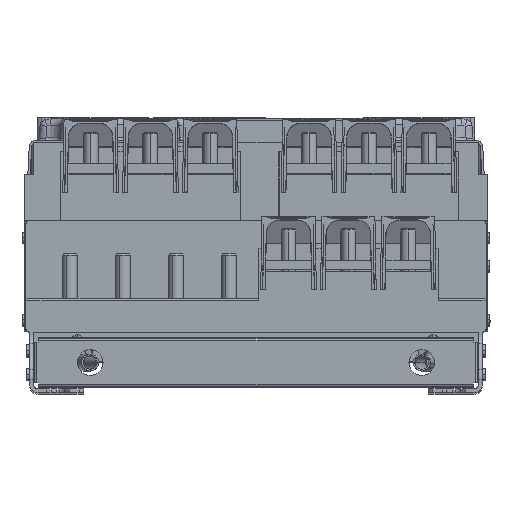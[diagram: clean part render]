
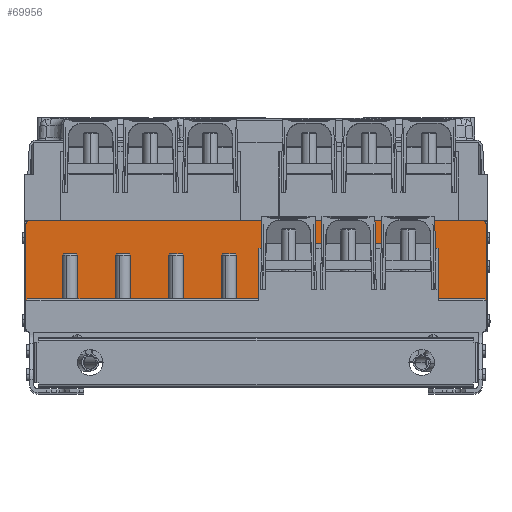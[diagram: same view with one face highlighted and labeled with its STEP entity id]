
A CAD part, top view. The second image highlights one B-rep face of the part: STEP entity #69956.
In plain terms, the highlighted planar face has unit normal (0, 0, 1).
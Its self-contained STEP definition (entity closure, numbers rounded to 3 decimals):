
#733 = CARTESIAN_POINT ( 'NONE',  ( 2.806, 89., 179. ) ) ;
#1127 = ORIENTED_EDGE ( 'NONE', *, *, #54781, .F. ) ;
#1866 = ORIENTED_EDGE ( 'NONE', *, *, #36319, .F. ) ;
#2496 = VERTEX_POINT ( 'NONE', #35633 ) ;
#2855 = EDGE_CURVE ( 'NONE', #39981, #76472, #95355, .T. ) ;
#3177 = DIRECTION ( 'NONE',  ( 1., 0., 0. ) ) ;
#4326 = DIRECTION ( 'NONE',  ( 1., 0., 0. ) ) ;
#4914 = CARTESIAN_POINT ( 'NONE',  ( -247., 35., 179. ) ) ;
#4958 = ORIENTED_EDGE ( 'NONE', *, *, #52672, .T. ) ;
#5672 = EDGE_CURVE ( 'NONE', #55098, #31838, #70380, .T. ) ;
#6348 = ORIENTED_EDGE ( 'NONE', *, *, #75277, .T. ) ;
#9524 = DIRECTION ( 'NONE',  ( 1., 0., 0. ) ) ;
#9564 = VERTEX_POINT ( 'NONE', #49361 ) ;
#9766 = ORIENTED_EDGE ( 'NONE', *, *, #37284, .T. ) ;
#10060 = EDGE_CURVE ( 'NONE', #20686, #72873, #22641, .T. ) ;
#10874 = DIRECTION ( 'NONE',  ( 1., 0., 0. ) ) ;
#12317 = PLANE ( 'NONE',  #27825 ) ;
#12982 = LINE ( 'NONE', #19715, #40471 ) ;
#13834 = CARTESIAN_POINT ( 'NONE',  ( 190.479, 89., 179. ) ) ;
#14787 = LINE ( 'NONE', #52402, #77710 ) ;
#15149 = CARTESIAN_POINT ( 'NONE',  ( 192.514, 89., 179. ) ) ;
#15648 = ORIENTED_EDGE ( 'NONE', *, *, #26505, .T. ) ;
#15961 = VERTEX_POINT ( 'NONE', #91141 ) ;
#18970 = LINE ( 'NONE', #40678, #22181 ) ;
#19062 = CARTESIAN_POINT ( 'NONE',  ( -247., 31., 179. ) ) ;
#19173 = ORIENTED_EDGE ( 'NONE', *, *, #95308, .F. ) ;
#19362 = LINE ( 'NONE', #4914, #86677 ) ;
#19364 = DIRECTION ( 'NONE',  ( 1., 0., 0. ) ) ;
#19715 = CARTESIAN_POINT ( 'NONE',  ( -245., 35., 179. ) ) ;
#20686 = VERTEX_POINT ( 'NONE', #95379 ) ;
#21255 = VERTEX_POINT ( 'NONE', #733 ) ;
#22181 = VECTOR ( 'NONE', #33926, 1000. ) ;
#22641 = LINE ( 'NONE', #52109, #89486 ) ;
#24143 = VECTOR ( 'NONE', #3177, 1000. ) ;
#24246 = EDGE_CURVE ( 'NONE', #92325, #55098, #82044, .T. ) ;
#24385 = CARTESIAN_POINT ( 'NONE',  ( 2.806, 35., 179. ) ) ;
#26505 = EDGE_CURVE ( 'NONE', #95311, #73752, #69115, .T. ) ;
#26541 = AXIS2_PLACEMENT_3D ( 'NONE', #54961, #85321, #49142 ) ;
#27825 = AXIS2_PLACEMENT_3D ( 'NONE', #19062, #54337, #10874 ) ;
#27824 = LINE ( 'NONE', #73206, #34596 ) ;
#27892 = EDGE_CURVE ( 'NONE', #73752, #39981, #43924, .T. ) ;
#31838 = VERTEX_POINT ( 'NONE', #50885 ) ;
#32322 = VECTOR ( 'NONE', #72238, 1000. ) ;
#32694 = CARTESIAN_POINT ( 'NONE',  ( 247., 115., 179. ) ) ;
#33926 = DIRECTION ( 'NONE',  ( 0.707, -0.707, 0. ) ) ;
#34544 = VECTOR ( 'NONE', #19364, 1000. ) ;
#34596 = VECTOR ( 'NONE', #36491, 1000. ) ;
#34714 = CARTESIAN_POINT ( 'NONE',  ( -247., 115., 179. ) ) ;
#35633 = CARTESIAN_POINT ( 'NONE',  ( 5.803, 89., 179. ) ) ;
#35639 = CARTESIAN_POINT ( 'NONE',  ( 192.423, 94.2, 179. ) ) ;
#35796 = ORIENTED_EDGE ( 'NONE', *, *, #24246, .F. ) ;
#35880 = AXIS2_PLACEMENT_3D ( 'NONE', #83807, #90573, #9524 ) ;
#36078 = EDGE_CURVE ( 'NONE', #20686, #43804, #12982, .T. ) ;
#36319 = EDGE_CURVE ( 'NONE', #72873, #9564, #69799, .T. ) ;
#36491 = DIRECTION ( 'NONE',  ( 1., 0., 0. ) ) ;
#36756 = VECTOR ( 'NONE', #67833, 1000. ) ;
#37284 = EDGE_CURVE ( 'NONE', #21255, #2496, #93077, .T. ) ;
#39328 = CARTESIAN_POINT ( 'NONE',  ( 243., 119., 179. ) ) ;
#39981 = VERTEX_POINT ( 'NONE', #15149 ) ;
#40471 = VECTOR ( 'NONE', #64616, 1000. ) ;
#40678 = CARTESIAN_POINT ( 'NONE',  ( 245., 35., 179. ) ) ;
#43804 = VERTEX_POINT ( 'NONE', #87749 ) ;
#43924 = LINE ( 'NONE', #88311, #73327 ) ;
#46503 = ORIENTED_EDGE ( 'NONE', *, *, #2855, .T. ) ;
#47112 = ORIENTED_EDGE ( 'NONE', *, *, #72508, .T. ) ;
#49142 = DIRECTION ( 'NONE',  ( 1., 0., 0. ) ) ;
#49361 = CARTESIAN_POINT ( 'NONE',  ( -243., 119., 179. ) ) ;
#50885 = CARTESIAN_POINT ( 'NONE',  ( 247., 33., 179. ) ) ;
#51390 = CARTESIAN_POINT ( 'NONE',  ( 195.511, 35., 179. ) ) ;
#51651 = DIRECTION ( 'NONE',  ( 0.017, -1., 0. ) ) ;
#52109 = CARTESIAN_POINT ( 'NONE',  ( -247., 1., 179. ) ) ;
#52402 = CARTESIAN_POINT ( 'NONE',  ( 5.351, 63.129, 179. ) ) ;
#52672 = EDGE_CURVE ( 'NONE', #63139, #15961, #19362, .T. ) ;
#54337 = DIRECTION ( 'NONE',  ( 0., 0., 1. ) ) ;
#54781 = EDGE_CURVE ( 'NONE', #95311, #2496, #14787, .T. ) ;
#54961 = CARTESIAN_POINT ( 'NONE',  ( 243., 115., 179. ) ) ;
#55098 = VERTEX_POINT ( 'NONE', #72469 ) ;
#56274 = LINE ( 'NONE', #93370, #24143 ) ;
#57517 = DIRECTION ( 'NONE',  ( 1., 0., 0. ) ) ;
#58873 = EDGE_CURVE ( 'NONE', #76472, #63139, #76121, .T. ) ;
#61187 = ORIENTED_EDGE ( 'NONE', *, *, #27892, .T. ) ;
#62207 = VERTEX_POINT ( 'NONE', #24385 ) ;
#63139 = VERTEX_POINT ( 'NONE', #51390 ) ;
#64121 = DIRECTION ( 'NONE',  ( 0., -1., 0. ) ) ;
#64616 = DIRECTION ( 'NONE',  ( 0.707, 0.707, 0. ) ) ;
#65130 = ORIENTED_EDGE ( 'NONE', *, *, #58873, .T. ) ;
#67833 = DIRECTION ( 'NONE',  ( 0., 1., 0. ) ) ;
#67948 = CARTESIAN_POINT ( 'NONE',  ( 195.511, 89., 179. ) ) ;
#68966 = VECTOR ( 'NONE', #64121, 1000. ) ;
#69115 = LINE ( 'NONE', #76801, #34544 ) ;
#69398 = EDGE_LOOP ( 'NONE', ( #1127, #15648, #61187, #46503, #65130, #4958, #47112, #85844, #35796, #19173, #1866, #89446, #91100, #6348, #70682, #9766 ) ) ;
#69799 = CIRCLE ( 'NONE', #35880, 4. ) ;
#69956 = ADVANCED_FACE ( 'NONE', ( #76975 ), #12317, .T. ) ;
#70380 = LINE ( 'NONE', #32694, #68966 ) ;
#70682 = ORIENTED_EDGE ( 'NONE', *, *, #76542, .T. ) ;
#72238 = DIRECTION ( 'NONE',  ( 1., 0., 0. ) ) ;
#72469 = CARTESIAN_POINT ( 'NONE',  ( 247., 115., 179. ) ) ;
#72508 = EDGE_CURVE ( 'NONE', #15961, #31838, #18970, .T. ) ;
#72873 = VERTEX_POINT ( 'NONE', #34714 ) ;
#73206 = CARTESIAN_POINT ( 'NONE',  ( -243., 119., 179. ) ) ;
#73327 = VECTOR ( 'NONE', #51651, 1000. ) ;
#73752 = VERTEX_POINT ( 'NONE', #35639 ) ;
#74126 = CARTESIAN_POINT ( 'NONE',  ( 195.511, 89., 179. ) ) ;
#74287 = DIRECTION ( 'NONE',  ( 0., 1., 0. ) ) ;
#75277 = EDGE_CURVE ( 'NONE', #43804, #62207, #56274, .T. ) ;
#75546 = LINE ( 'NONE', #90961, #36756 ) ;
#76121 = LINE ( 'NONE', #67948, #76579 ) ;
#76123 = VECTOR ( 'NONE', #4326, 1000. ) ;
#76472 = VERTEX_POINT ( 'NONE', #74126 ) ;
#76542 = EDGE_CURVE ( 'NONE', #62207, #21255, #75546, .T. ) ;
#76579 = VECTOR ( 'NONE', #82899, 1000. ) ;
#76801 = CARTESIAN_POINT ( 'NONE',  ( -44.533, 94.2, 179. ) ) ;
#76975 = FACE_OUTER_BOUND ( 'NONE', #69398, .T. ) ;
#77710 = VECTOR ( 'NONE', #89078, 1000. ) ;
#79032 = CARTESIAN_POINT ( 'NONE',  ( 5.894, 94.2, 179. ) ) ;
#82044 = CIRCLE ( 'NONE', #26541, 4. ) ;
#82899 = DIRECTION ( 'NONE',  ( 0., -1., 0. ) ) ;
#83807 = CARTESIAN_POINT ( 'NONE',  ( -243., 115., 179. ) ) ;
#85321 = DIRECTION ( 'NONE',  ( 0., 0., -1. ) ) ;
#85844 = ORIENTED_EDGE ( 'NONE', *, *, #5672, .F. ) ;
#86677 = VECTOR ( 'NONE', #57517, 1000. ) ;
#86809 = CARTESIAN_POINT ( 'NONE',  ( 2.806, 89., 179. ) ) ;
#87749 = CARTESIAN_POINT ( 'NONE',  ( -245., 35., 179. ) ) ;
#88311 = CARTESIAN_POINT ( 'NONE',  ( 192.965, 63.129, 179. ) ) ;
#89078 = DIRECTION ( 'NONE',  ( -0.017, -1., 0. ) ) ;
#89446 = ORIENTED_EDGE ( 'NONE', *, *, #10060, .F. ) ;
#89486 = VECTOR ( 'NONE', #74287, 1000. ) ;
#90573 = DIRECTION ( 'NONE',  ( 0., 0., -1. ) ) ;
#90961 = CARTESIAN_POINT ( 'NONE',  ( 2.806, 35., 179. ) ) ;
#91100 = ORIENTED_EDGE ( 'NONE', *, *, #36078, .T. ) ;
#91141 = CARTESIAN_POINT ( 'NONE',  ( 245., 35., 179. ) ) ;
#92325 = VERTEX_POINT ( 'NONE', #39328 ) ;
#93077 = LINE ( 'NONE', #86809, #76123 ) ;
#93370 = CARTESIAN_POINT ( 'NONE',  ( -247., 35., 179. ) ) ;
#95308 = EDGE_CURVE ( 'NONE', #9564, #92325, #27824, .T. ) ;
#95311 = VERTEX_POINT ( 'NONE', #79032 ) ;
#95355 = LINE ( 'NONE', #13834, #32322 ) ;
#95379 = CARTESIAN_POINT ( 'NONE',  ( -247., 33., 179. ) ) ;
